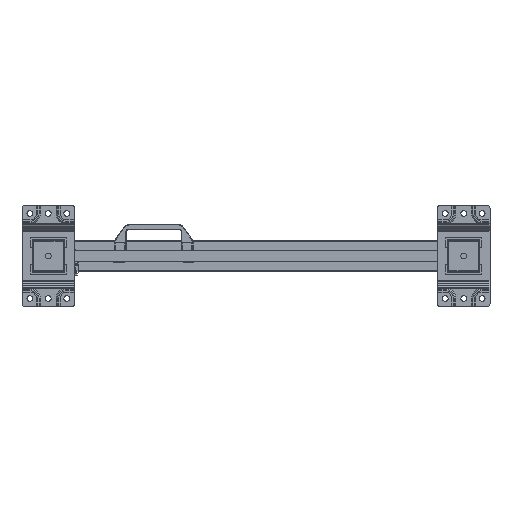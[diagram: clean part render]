
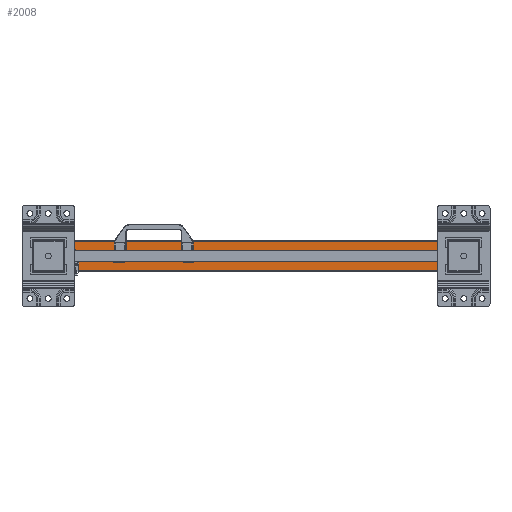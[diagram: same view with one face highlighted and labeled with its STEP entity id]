
A CAD part, front view. The second image highlights one B-rep face of the part: STEP entity #2008.
In plain terms, the highlighted planar face has unit normal (0, -1, 0).
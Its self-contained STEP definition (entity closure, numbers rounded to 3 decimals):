
#2008=ADVANCED_FACE('',(#5945),#5946,.T.);
#5945=FACE_OUTER_BOUND('',#12134,.T.);
#5946=PLANE('',#12135);
#12134=EDGE_LOOP('',(#19867,#19868,#19869,#19870));
#12135=AXIS2_PLACEMENT_3D('',#19871,#19872,#19873);
#19867=ORIENTED_EDGE('',*,*,#37314,.T.);
#19868=ORIENTED_EDGE('',*,*,#37315,.F.);
#19869=ORIENTED_EDGE('',*,*,#37316,.T.);
#19870=ORIENTED_EDGE('',*,*,#37304,.T.);
#19871=CARTESIAN_POINT('',(0.0,2539.0,30.));
#19872=DIRECTION('',(0.,-1.0,0.));
#19873=DIRECTION('',(-1.0,0.,0.0));
#37304=EDGE_CURVE('',#44474,#44472,#44475,.T.);
#37314=EDGE_CURVE('',#44472,#44487,#44488,.T.);
#37315=EDGE_CURVE('',#44489,#44487,#44490,.T.);
#37316=EDGE_CURVE('',#44489,#44474,#44491,.T.);
#44472=VERTEX_POINT('',#54990);
#44474=VERTEX_POINT('',#54993);
#44475=LINE('',#54994,#54995);
#44487=VERTEX_POINT('',#55013);
#44488=LINE('',#55014,#55015);
#44489=VERTEX_POINT('',#55016);
#44490=LINE('',#55017,#55018);
#44491=LINE('',#55019,#55020);
#54990=CARTESIAN_POINT('',(730.0,2539.0,-30.));
#54993=CARTESIAN_POINT('',(0.,2539.0,-30.));
#54994=CARTESIAN_POINT('',(0.,2539.0,-30.));
#54995=VECTOR('',#70836,10.0);
#55013=CARTESIAN_POINT('',(730.0,2539.0,30.));
#55014=CARTESIAN_POINT('',(730.0,2539.0,15.));
#55015=VECTOR('',#70843,1.0);
#55016=CARTESIAN_POINT('',(0.0,2539.0,30.));
#55017=CARTESIAN_POINT('',(0.0,2539.0,30.));
#55018=VECTOR('',#70844,10.0);
#55019=CARTESIAN_POINT('',(0.0,2539.0,30.));
#55020=VECTOR('',#70845,10.0);
#70836=DIRECTION('',(1.0,0.,0.));
#70843=DIRECTION('',(-0.0,0.,1.0));
#70844=DIRECTION('',(1.0,0.,0.));
#70845=DIRECTION('',(0.,0.,-1.0));
